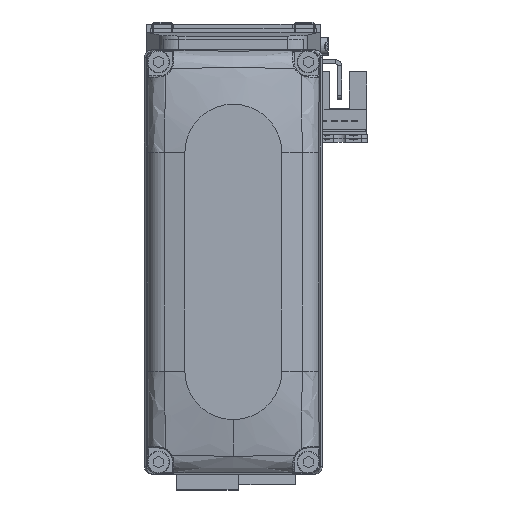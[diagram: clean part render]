
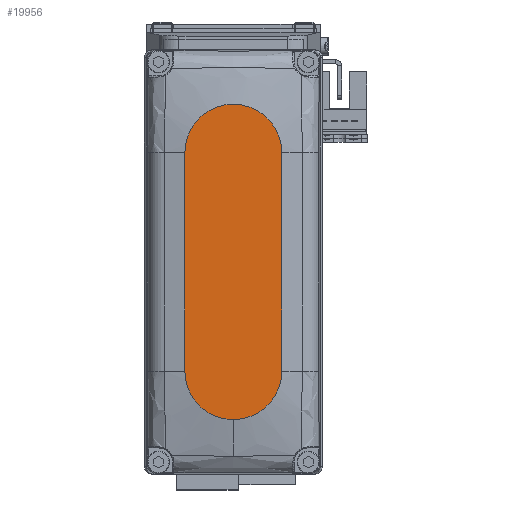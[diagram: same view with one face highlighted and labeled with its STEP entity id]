
A CAD part, top view. The second image highlights one B-rep face of the part: STEP entity #19956.
In plain terms, the highlighted planar face has unit normal (0, 0, 1).
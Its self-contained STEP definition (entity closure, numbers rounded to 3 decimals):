
#13 = DIRECTION ( 'NONE',  ( 0., 0., 1. ) ) ;
#893 = DIRECTION ( 'NONE',  ( -1., 0., 0. ) ) ;
#1042 = EDGE_LOOP ( 'NONE', ( #3927, #20701, #26524, #38786, #3124 ) ) ;
#2643 = EDGE_CURVE ( 'NONE', #20918, #5089, #23011, .T. ) ;
#3124 = ORIENTED_EDGE ( 'NONE', *, *, #11445, .T. ) ;
#3844 = CARTESIAN_POINT ( 'NONE',  ( -27., 12., 25. ) ) ;
#3927 = ORIENTED_EDGE ( 'NONE', *, *, #15355, .T. ) ;
#4217 = CARTESIAN_POINT ( 'NONE',  ( -27., -12., 25. ) ) ;
#5034 = CARTESIAN_POINT ( 'NONE',  ( -27., -12., 25. ) ) ;
#5089 = VERTEX_POINT ( 'NONE', #18112 ) ;
#5578 = CIRCLE ( 'NONE', #28145, 12. ) ;
#5581 = AXIS2_PLACEMENT_3D ( 'NONE', #27710, #13, #12371 ) ;
#6091 = DIRECTION ( 'NONE',  ( 1., 0., 0. ) ) ;
#7958 = VERTEX_POINT ( 'NONE', #8160 ) ;
#8160 = CARTESIAN_POINT ( 'NONE',  ( 27., 12., 25. ) ) ;
#8505 = CARTESIAN_POINT ( 'NONE',  ( 0., 0., 25. ) ) ;
#8678 = DIRECTION ( 'NONE',  ( 1., 0., 0. ) ) ;
#11445 = EDGE_CURVE ( 'NONE', #5089, #7958, #36320, .T. ) ;
#12076 = EDGE_CURVE ( 'NONE', #33224, #20918, #31866, .T. ) ;
#12371 = DIRECTION ( 'NONE',  ( 1., 0., 0. ) ) ;
#15355 = EDGE_CURVE ( 'NONE', #7958, #39510, #16294, .T. ) ;
#16294 = LINE ( 'NONE', #28582, #29483 ) ;
#16436 = EDGE_CURVE ( 'NONE', #39510, #33224, #5578, .T. ) ;
#16570 = DIRECTION ( 'NONE',  ( 1., 0., 0. ) ) ;
#18112 = CARTESIAN_POINT ( 'NONE',  ( 39., 0., 25. ) ) ;
#19004 = AXIS2_PLACEMENT_3D ( 'NONE', #21462, #33715, #6091 ) ;
#19639 = CARTESIAN_POINT ( 'NONE',  ( 27., -12., 25. ) ) ;
#19956 = ADVANCED_FACE ( 'NONE', ( #23868 ), #36105, .T. ) ;
#20701 = ORIENTED_EDGE ( 'NONE', *, *, #16436, .T. ) ;
#20831 = DIRECTION ( 'NONE',  ( 0., 0., 1. ) ) ;
#20918 = VERTEX_POINT ( 'NONE', #19639 ) ;
#21462 = CARTESIAN_POINT ( 'NONE',  ( 27., 0., 25. ) ) ;
#21626 = VECTOR ( 'NONE', #16570, 1000. ) ;
#23011 = CIRCLE ( 'NONE', #5581, 12. ) ;
#23738 = AXIS2_PLACEMENT_3D ( 'NONE', #8505, #20831, #33097 ) ;
#23868 = FACE_OUTER_BOUND ( 'NONE', #1042, .T. ) ;
#24032 = CARTESIAN_POINT ( 'NONE',  ( -27., 0., 25. ) ) ;
#26524 = ORIENTED_EDGE ( 'NONE', *, *, #12076, .T. ) ;
#27710 = CARTESIAN_POINT ( 'NONE',  ( 27., 0., 25. ) ) ;
#28145 = AXIS2_PLACEMENT_3D ( 'NONE', #24032, #36262, #8678 ) ;
#28582 = CARTESIAN_POINT ( 'NONE',  ( -27., 12., 25. ) ) ;
#29483 = VECTOR ( 'NONE', #893, 1000. ) ;
#31866 = LINE ( 'NONE', #4217, #21626 ) ;
#33097 = DIRECTION ( 'NONE',  ( 1., 0., 0. ) ) ;
#33224 = VERTEX_POINT ( 'NONE', #5034 ) ;
#33715 = DIRECTION ( 'NONE',  ( 0., 0., 1. ) ) ;
#36105 = PLANE ( 'NONE',  #23738 ) ;
#36262 = DIRECTION ( 'NONE',  ( 0., 0., 1. ) ) ;
#36320 = CIRCLE ( 'NONE', #19004, 12. ) ;
#38786 = ORIENTED_EDGE ( 'NONE', *, *, #2643, .T. ) ;
#39510 = VERTEX_POINT ( 'NONE', #3844 ) ;
